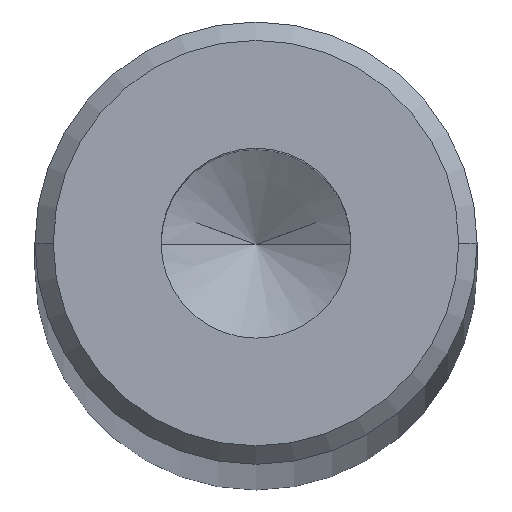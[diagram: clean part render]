
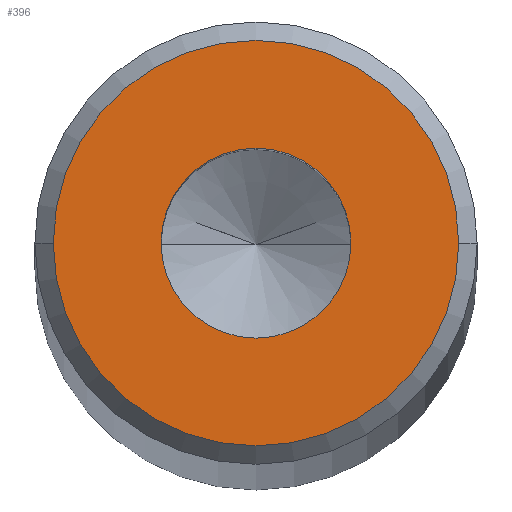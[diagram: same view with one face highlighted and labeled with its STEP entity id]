
A CAD part, top view. The second image highlights one B-rep face of the part: STEP entity #396.
In plain terms, the highlighted planar face has unit normal (0, 0, 1).
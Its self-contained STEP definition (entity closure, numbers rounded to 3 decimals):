
#141=CARTESIAN_POINT('',(2.577,0.0,250.0));
#142=VERTEX_POINT('',#141);
#151=CARTESIAN_POINT('',(-2.577,0.,250.0));
#152=VERTEX_POINT('',#151);
#153=CARTESIAN_POINT('',(0.0,0.0,250.0));
#154=DIRECTION('',(0.0,0.0,-1.0));
#155=DIRECTION('',(1.0,0.0,0.0));
#156=AXIS2_PLACEMENT_3D('',#153,#154,#155);
#157=CIRCLE('',#156,2.577);
#158=EDGE_CURVE('',#152,#142,#157,.T.);
#208=CARTESIAN_POINT('',(-5.5,0.0,250.0));
#209=VERTEX_POINT('',#208);
#225=CARTESIAN_POINT('',(5.5,0.,250.0));
#226=VERTEX_POINT('',#225);
#233=CARTESIAN_POINT('',(0.0,0.0,250.0));
#234=DIRECTION('',(0.0,0.0,-1.0));
#235=DIRECTION('',(-1.0,0.0,0.0));
#236=AXIS2_PLACEMENT_3D('',#233,#234,#235);
#237=CIRCLE('',#236,5.5);
#238=EDGE_CURVE('',#226,#209,#237,.T.);
#365=CARTESIAN_POINT('',(0.0,0.0,250.0));
#366=DIRECTION('',(0.0,0.0,-1.0));
#367=DIRECTION('',(-1.0,0.0,0.0));
#368=AXIS2_PLACEMENT_3D('',#365,#366,#367);
#369=CIRCLE('',#368,5.5);
#370=EDGE_CURVE('',#209,#226,#369,.T.);
#377=CARTESIAN_POINT('',(0.0,0.0,250.0));
#378=DIRECTION('',(0.0,0.0,1.0));
#379=DIRECTION('',(1.0,0.0,0.0));
#380=AXIS2_PLACEMENT_3D('',#377,#378,#379);
#381=PLANE('',#380);
#382=ORIENTED_EDGE('',*,*,#238,.F.);
#383=ORIENTED_EDGE('',*,*,#370,.F.);
#384=EDGE_LOOP('',(#382,#383));
#385=FACE_OUTER_BOUND('',#384,.T.);
#386=CARTESIAN_POINT('',(0.0,0.0,250.0));
#387=DIRECTION('',(0.0,0.0,-1.0));
#388=DIRECTION('',(1.0,0.0,0.0));
#389=AXIS2_PLACEMENT_3D('',#386,#387,#388);
#390=CIRCLE('',#389,2.577);
#391=EDGE_CURVE('',#142,#152,#390,.T.);
#392=ORIENTED_EDGE('',*,*,#391,.T.);
#393=ORIENTED_EDGE('',*,*,#158,.T.);
#394=EDGE_LOOP('',(#392,#393));
#395=FACE_BOUND('',#394,.T.);
#396=ADVANCED_FACE('',(#385,#395),#381,.T.);
